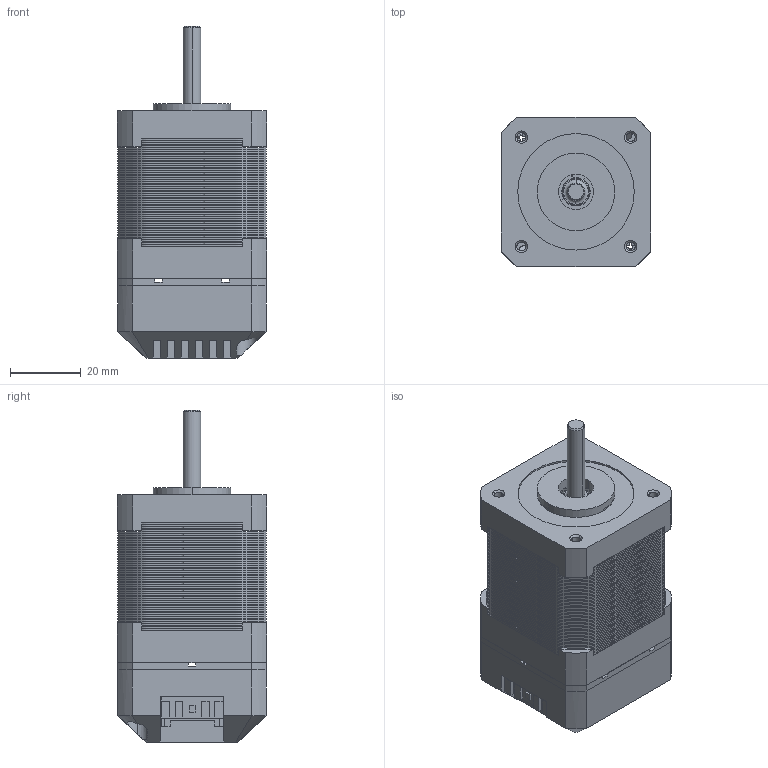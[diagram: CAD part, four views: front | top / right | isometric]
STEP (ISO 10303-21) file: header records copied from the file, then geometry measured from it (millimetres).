
FILE_DESCRIPTION((''),'2;1');
FILE_NAME('3_1_01_042_5140_SW0002','2024-10-15T11:52:19',('yangle'),(''),'CREO PARAMETRIC BY PTC INC, 2017110','CREO PARAMETRIC BY PTC INC, 2017110','');
FILE_SCHEMA(('CONFIG_CONTROL_DESIGN'));
Products named in the file (1): 3_1_01_042_5140_SW0002
Bounding box: 42.3 x 42.3 x 94.1 mm (x, y, z)
Surface area: 18335.2 mm2 (no closed solid volume)
Topology: 0 solids, 1014 shells, 6407 faces, 20514 edges, 14266 vertices
Faces by surface type: extrusion 2975, plane 2529, cylinder 825, sphere 58, cone 12, bspline 6, torus 2
Entity records: 355495 total; most frequent: CARTESIAN_POINT 197259, ORIENTED_EDGE 27016, DIRECTION 26101, EDGE_CURVE 20460, VECTOR 15509, VERTEX_POINT 14266, LINE 12534, B_SPLINE_CURVE_WITH_KNOTS 9031
